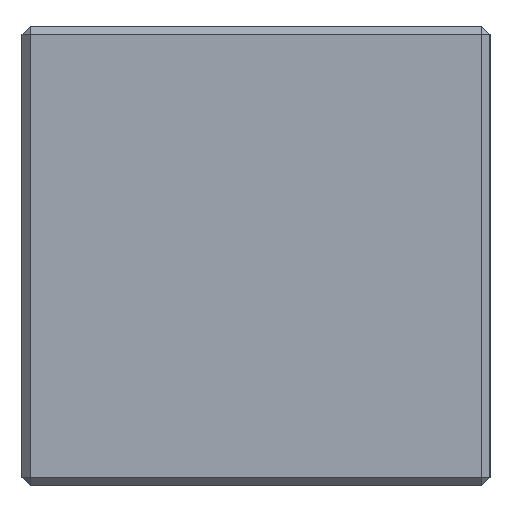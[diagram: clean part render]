
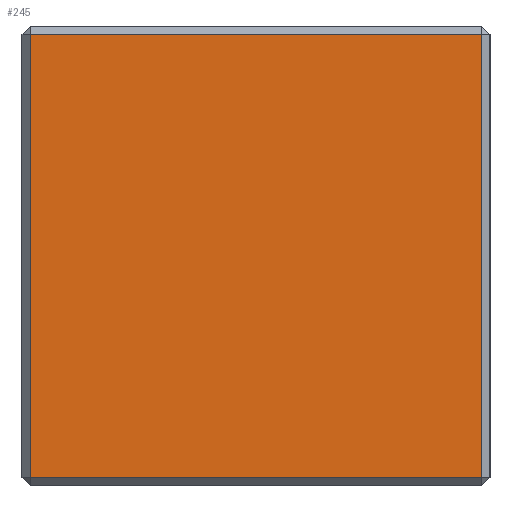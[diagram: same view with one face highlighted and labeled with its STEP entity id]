
A CAD part, left-side view. The second image highlights one B-rep face of the part: STEP entity #245.
In plain terms, the highlighted planar face has unit normal (-1, 0, 0).
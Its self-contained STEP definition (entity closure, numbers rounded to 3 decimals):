
#27 = VERTEX_POINT ( 'NONE', #1381 ) ;
#34 = DIRECTION ( 'NONE',  ( 0., 1., 0. ) ) ;
#187 = CARTESIAN_POINT ( 'NONE',  ( -37.5, -27., -1. ) ) ;
#245 = ADVANCED_FACE ( 'NONE', ( #672 ), #1458, .T. ) ;
#393 = LINE ( 'NONE', #1134, #1513 ) ;
#410 = VECTOR ( 'NONE', #34, 1000. ) ;
#446 = CARTESIAN_POINT ( 'NONE',  ( -37.5, -27., 0. ) ) ;
#450 = ORIENTED_EDGE ( 'NONE', *, *, #2290, .F. ) ;
#535 = DIRECTION ( 'NONE',  ( 0., 0., 1. ) ) ;
#547 = VECTOR ( 'NONE', #656, 1000. ) ;
#560 = VECTOR ( 'NONE', #1689, 1000. ) ;
#626 = VERTEX_POINT ( 'NONE', #1540 ) ;
#646 = ORIENTED_EDGE ( 'NONE', *, *, #1886, .F. ) ;
#656 = DIRECTION ( 'NONE',  ( 0., 0., 1. ) ) ;
#672 = FACE_OUTER_BOUND ( 'NONE', #2060, .T. ) ;
#710 = DIRECTION ( 'NONE',  ( -1., 0., 0. ) ) ;
#780 = CARTESIAN_POINT ( 'NONE',  ( -37.5, -27., -54. ) ) ;
#816 = AXIS2_PLACEMENT_3D ( 'NONE', #2387, #710, #535 ) ;
#830 = LINE ( 'NONE', #2308, #547 ) ;
#938 = VERTEX_POINT ( 'NONE', #187 ) ;
#997 = CARTESIAN_POINT ( 'NONE',  ( -37.5, -14., -54. ) ) ;
#1066 = ORIENTED_EDGE ( 'NONE', *, *, #1080, .F. ) ;
#1080 = EDGE_CURVE ( 'NONE', #27, #938, #393, .T. ) ;
#1132 = EDGE_CURVE ( 'NONE', #626, #27, #830, .T. ) ;
#1134 = CARTESIAN_POINT ( 'NONE',  ( -37.5, -14., -1. ) ) ;
#1381 = CARTESIAN_POINT ( 'NONE',  ( -37.5, 27., -1. ) ) ;
#1458 = PLANE ( 'NONE',  #816 ) ;
#1513 = VECTOR ( 'NONE', #1888, 1000. ) ;
#1521 = VERTEX_POINT ( 'NONE', #780 ) ;
#1540 = CARTESIAN_POINT ( 'NONE',  ( -37.5, 27., -54. ) ) ;
#1689 = DIRECTION ( 'NONE',  ( 0., 0., -1. ) ) ;
#1886 = EDGE_CURVE ( 'NONE', #1521, #626, #1930, .T. ) ;
#1888 = DIRECTION ( 'NONE',  ( 0., -1., 0. ) ) ;
#1930 = LINE ( 'NONE', #997, #410 ) ;
#2060 = EDGE_LOOP ( 'NONE', ( #2406, #646, #450, #1066 ) ) ;
#2121 = LINE ( 'NONE', #446, #560 ) ;
#2290 = EDGE_CURVE ( 'NONE', #938, #1521, #2121, .T. ) ;
#2308 = CARTESIAN_POINT ( 'NONE',  ( -37.5, 27., 0. ) ) ;
#2387 = CARTESIAN_POINT ( 'NONE',  ( -37.5, -28., 0. ) ) ;
#2406 = ORIENTED_EDGE ( 'NONE', *, *, #1132, .F. ) ;
